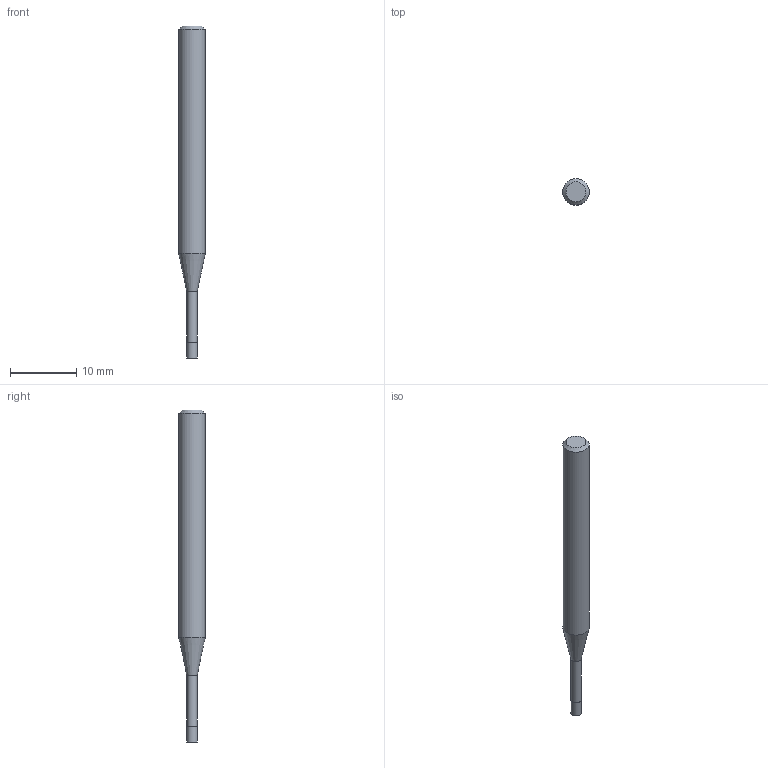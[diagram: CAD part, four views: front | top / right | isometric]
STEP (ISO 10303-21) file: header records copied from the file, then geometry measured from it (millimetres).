
FILE_DESCRIPTION((''),'2;1');
FILE_NAME('C:\Users\nsx150\AppData\Local\Temp\Mastercam 2021\17T8Q8S9EB\TEMP.step','2021-04-21T14:27:04',(''),(''),'STEP Write','Mastercam 2021 ... CNC Software, Inc.','');
FILE_SCHEMA(('AUTOMOTIVE_DESIGN'));
Length unit declared in the file: millimetre
Products named in the file (1): None
Bounding box: 4 x 4 x 50 mm (x, y, z)
Volume: 485.1 mm3; surface area: 545.1 mm2
Topology: 2 solids, 2 shells, 9 faces, 12 edges, 7 vertices
Faces by surface type: plane 4, cylinder 3, cone 2
Full cylindrical faces by diameter (mm): 1.55 x1, 1.6 x1, 4 x1
Entity records: 211 total; most frequent: DIRECTION 36, CARTESIAN_POINT 25, AXIS2_PLACEMENT_3D 18, ORIENTED_EDGE 14, EDGE_LOOP 14, STYLED_ITEM 12, ADVANCED_FACE 9, FACE_BOUND 8
